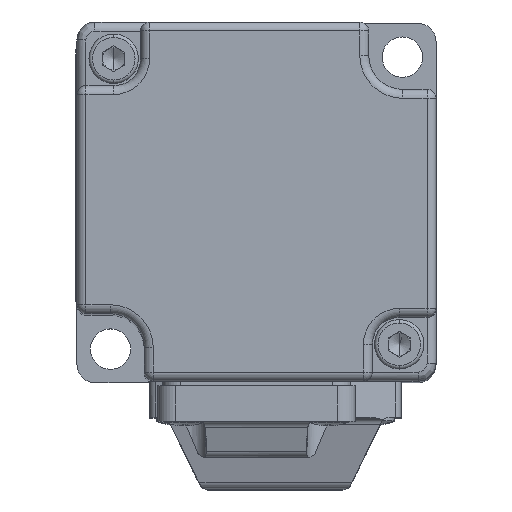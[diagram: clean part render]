
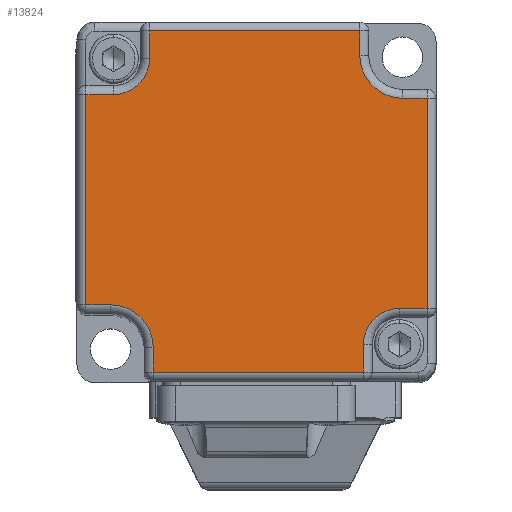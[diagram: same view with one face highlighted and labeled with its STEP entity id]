
A CAD part, top view. The second image highlights one B-rep face of the part: STEP entity #13824.
In plain terms, the highlighted planar face has unit normal (0, 0, 1).
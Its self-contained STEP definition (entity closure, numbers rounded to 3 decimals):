
#2828=CARTESIAN_POINT('',(16.3,18.969,-103.086));
#2829=DIRECTION('',(0.,0.,1.));
#2830=DIRECTION('',(-1.,0.,0.));
#2831=AXIS2_PLACEMENT_3D('',#2828,#2829,#2830);
#2833=DIRECTION('',(0.,-1.,0.));
#2834=VECTOR('',#2833,23.41);
#2835=CARTESIAN_POINT('',(19.,14.169,-103.086));
#2836=LINE('',#2835,#2834);
#2837=DIRECTION('',(-1.,0.,0.));
#2838=VECTOR('',#2837,3.09);
#2839=CARTESIAN_POINT('',(19.,-9.241,-103.086));
#2840=LINE('',#2839,#2838);
#2841=CARTESIAN_POINT('',(15.91,-13.241,
-103.086));
#2842=DIRECTION('',(0.,0.,1.));
#2843=DIRECTION('',(0.,1.,0.));
#2844=AXIS2_PLACEMENT_3D('',#2841,#2842,#2843);
#2846=CARTESIAN_POINT('',(-16.3,-13.631,-103.086));
#2847=DIRECTION('',(0.,0.,1.));
#2848=DIRECTION('',(1.,0.,0.));
#2849=AXIS2_PLACEMENT_3D('',#2846,#2847,#2848);
#2851=CARTESIAN_POINT('',(-15.91,18.579,
-103.086));
#2852=DIRECTION('',(0.,0.,1.));
#2853=DIRECTION('',(0.,-1.,0.));
#2854=AXIS2_PLACEMENT_3D('',#2851,#2852,#2853);
#2860=DIRECTION('',(-1.,0.,0.));
#2861=VECTOR('',#2860,23.41);
#2862=CARTESIAN_POINT('',(11.5,21.669,-103.086));
#2863=LINE('',#2862,#2861);
#2874=DIRECTION('',(0.,1.,0.));
#2875=VECTOR('',#2874,2.7);
#2876=CARTESIAN_POINT('',(11.5,18.969,-103.086));
#2877=LINE('',#2876,#2875);
#2897=DIRECTION('',(-1.,0.,0.));
#2898=VECTOR('',#2897,2.7);
#2899=CARTESIAN_POINT('',(19.,14.169,-103.086));
#2900=LINE('',#2899,#2898);
#2935=DIRECTION('',(0.,-1.,0.));
#2936=VECTOR('',#2935,3.09);
#2937=CARTESIAN_POINT('',(-11.91,21.669,
-103.086));
#2938=LINE('',#2937,#2936);
#2949=DIRECTION('',(-1.,0.,0.));
#2950=VECTOR('',#2949,3.09);
#2951=CARTESIAN_POINT('',(-15.91,14.579,
-103.086));
#2952=LINE('',#2951,#2950);
#3264=DIRECTION('',(0.,-1.,0.));
#3265=VECTOR('',#3264,23.41);
#3266=CARTESIAN_POINT('',(-19.,14.579,-103.086));
#3267=LINE('',#3266,#3265);
#3287=DIRECTION('',(1.,0.,0.));
#3288=VECTOR('',#3287,2.7);
#3289=CARTESIAN_POINT('',(-19.,-8.831,-103.086));
#3290=LINE('',#3289,#3288);
#3301=DIRECTION('',(0.,-1.,0.));
#3302=VECTOR('',#3301,2.7);
#3303=CARTESIAN_POINT('',(-11.5,-13.631,-103.086));
#3304=LINE('',#3303,#3302);
#3323=DIRECTION('',(1.,0.,0.));
#3324=VECTOR('',#3323,23.41);
#3325=CARTESIAN_POINT('',(-11.5,-16.331,-103.086));
#3326=LINE('',#3325,#3324);
#3350=DIRECTION('',(0.,1.,0.));
#3351=VECTOR('',#3350,3.09);
#3352=CARTESIAN_POINT('',(11.91,-16.331,
-103.086));
#3353=LINE('',#3352,#3351);
#9443=CARTESIAN_POINT('',(15.91,-9.241,
-103.086));
#9444=VERTEX_POINT('',#9443);
#9445=CARTESIAN_POINT('',(11.91,-13.241,
-103.086));
#9446=VERTEX_POINT('',#9445);
#9447=CARTESIAN_POINT('',(19.,-9.241,-103.086));
#9448=VERTEX_POINT('',#9447);
#9449=CARTESIAN_POINT('',(19.,14.169,-103.086));
#9450=VERTEX_POINT('',#9449);
#9453=CARTESIAN_POINT('',(11.5,18.969,-103.086));
#9454=CARTESIAN_POINT('',(16.3,14.169,-103.086));
#9455=VERTEX_POINT('',#9453);
#9456=VERTEX_POINT('',#9454);
#9457=CARTESIAN_POINT('',(-11.5,-13.631,-103.086));
#9458=CARTESIAN_POINT('',(-16.3,-8.831,-103.086));
#9459=VERTEX_POINT('',#9457);
#9460=VERTEX_POINT('',#9458);
#9461=CARTESIAN_POINT('',(-15.91,14.579,
-103.086));
#9462=CARTESIAN_POINT('',(-11.91,18.579,
-103.086));
#9463=VERTEX_POINT('',#9461);
#9464=VERTEX_POINT('',#9462);
#9469=CARTESIAN_POINT('',(11.5,21.669,-103.086));
#9470=CARTESIAN_POINT('',(-11.91,21.669,
-103.086));
#9471=VERTEX_POINT('',#9469);
#9472=VERTEX_POINT('',#9470);
#9489=CARTESIAN_POINT('',(-19.,14.579,-103.086));
#9490=VERTEX_POINT('',#9489);
#9513=CARTESIAN_POINT('',(-19.,-8.831,-103.086));
#9514=VERTEX_POINT('',#9513);
#9525=CARTESIAN_POINT('',(-11.5,-16.331,-103.086));
#9526=VERTEX_POINT('',#9525);
#9529=CARTESIAN_POINT('',(11.91,-16.331,
-103.086));
#9530=VERTEX_POINT('',#9529);
#13788=CARTESIAN_POINT('',(0.,2.669,-103.086));
#13789=DIRECTION('',(0.,0.,1.));
#13790=DIRECTION('',(0.,-1.,0.));
#13791=AXIS2_PLACEMENT_3D('',#13788,#13789,#13790);
#13792=PLANE('',#13791);
#13794=ORIENTED_EDGE('',*,*,#13793,.F.);
#13796=ORIENTED_EDGE('',*,*,#13795,.F.);
#13798=ORIENTED_EDGE('',*,*,#13797,.T.);
#13800=ORIENTED_EDGE('',*,*,#13799,.F.);
#13801=ORIENTED_EDGE('',*,*,#13779,.T.);
#13802=ORIENTED_EDGE('',*,*,#13757,.T.);
#13803=ORIENTED_EDGE('',*,*,#13743,.T.);
#13805=ORIENTED_EDGE('',*,*,#13804,.F.);
#13807=ORIENTED_EDGE('',*,*,#13806,.F.);
#13809=ORIENTED_EDGE('',*,*,#13808,.F.);
#13811=ORIENTED_EDGE('',*,*,#13810,.T.);
#13813=ORIENTED_EDGE('',*,*,#13812,.F.);
#13815=ORIENTED_EDGE('',*,*,#13814,.F.);
#13817=ORIENTED_EDGE('',*,*,#13816,.F.);
#13819=ORIENTED_EDGE('',*,*,#13818,.T.);
#13821=ORIENTED_EDGE('',*,*,#13820,.F.);
#13822=EDGE_LOOP('',(#13794,#13796,#13798,#13800,#13801,#13802,#13803,#13805,
#13807,#13809,#13811,#13813,#13815,#13817,#13819,#13821));
#13823=FACE_OUTER_BOUND('',#13822,.F.);
#13824=ADVANCED_FACE('',(#13823),#13792,.T.);
#2832=CIRCLE('',#2831,4.8);
#2845=CIRCLE('',#2844,4.);
#2850=CIRCLE('',#2849,4.8);
#2855=CIRCLE('',#2854,4.);
#13743=EDGE_CURVE('',#9444,#9446,#2845,.T.);
#13757=EDGE_CURVE('',#9448,#9444,#2840,.T.);
#13779=EDGE_CURVE('',#9450,#9448,#2836,.T.);
#13793=EDGE_CURVE('',#9471,#9472,#2863,.T.);
#13795=EDGE_CURVE('',#9455,#9471,#2877,.T.);
#13797=EDGE_CURVE('',#9455,#9456,#2832,.T.);
#13799=EDGE_CURVE('',#9450,#9456,#2900,.T.);
#13804=EDGE_CURVE('',#9530,#9446,#3353,.T.);
#13806=EDGE_CURVE('',#9526,#9530,#3326,.T.);
#13808=EDGE_CURVE('',#9459,#9526,#3304,.T.);
#13810=EDGE_CURVE('',#9459,#9460,#2850,.T.);
#13812=EDGE_CURVE('',#9514,#9460,#3290,.T.);
#13814=EDGE_CURVE('',#9490,#9514,#3267,.T.);
#13816=EDGE_CURVE('',#9463,#9490,#2952,.T.);
#13818=EDGE_CURVE('',#9463,#9464,#2855,.T.);
#13820=EDGE_CURVE('',#9472,#9464,#2938,.T.);
